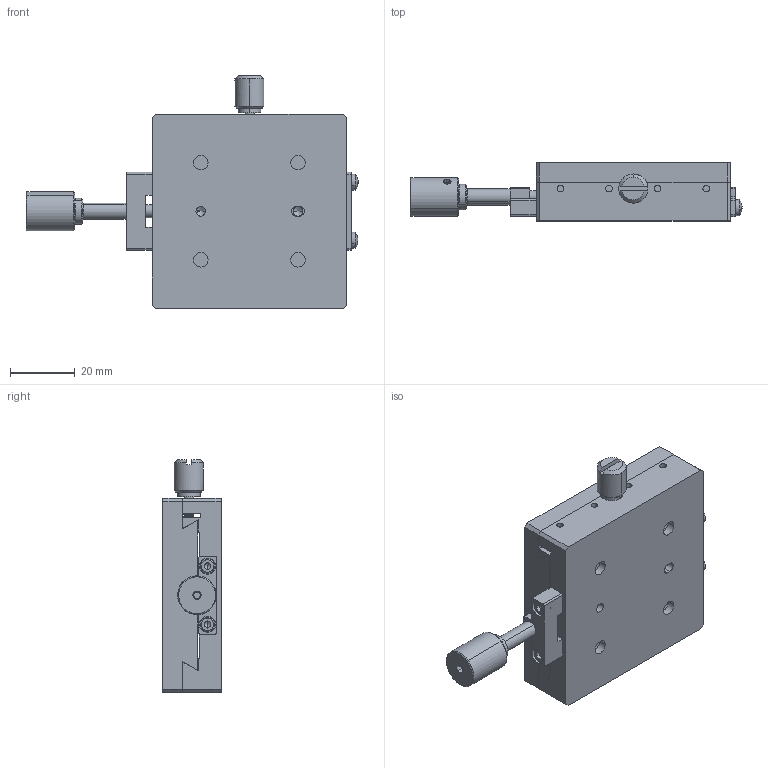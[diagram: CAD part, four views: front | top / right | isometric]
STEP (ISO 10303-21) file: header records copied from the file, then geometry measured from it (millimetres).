
FILE_DESCRIPTION (( 'STEP AP203' ), '1' );
FILE_NAME ('BFS60.STEP', '2024-02-23T07:53:44', ( 'China' ), ( 'Microsoft' ), 'SwSTEP 2.0', 'SolidWorks 2024', '' );
FILE_SCHEMA (( 'CONFIG_CONTROL_DESIGN' ));
Length unit declared in the file: millimetre
Products named in the file (1): BFS60
Bounding box: 102.57 x 18 x 71.89 mm (x, y, z)
Volume: 63297.5 mm3; surface area: 29295.5 mm2
Topology: 13 solids, 13 shells, 1377 faces, 3752 edges, 2416 vertices
Faces by surface type: plane 752, cylinder 265, bspline 243, cone 105, torus 8, sphere 4
Entity records: 61318 total; most frequent: CARTESIAN_POINT 29783, ORIENTED_EDGE 7360, DIRECTION 5085, EDGE_CURVE 3680, VERTEX_POINT 2416, LINE 1895, VECTOR 1895, AXIS2_PLACEMENT_3D 1595
